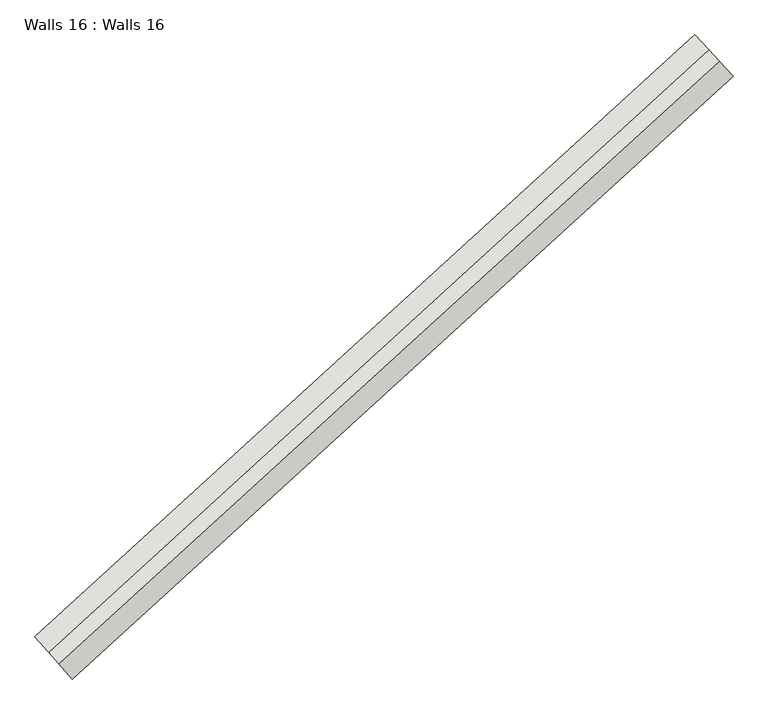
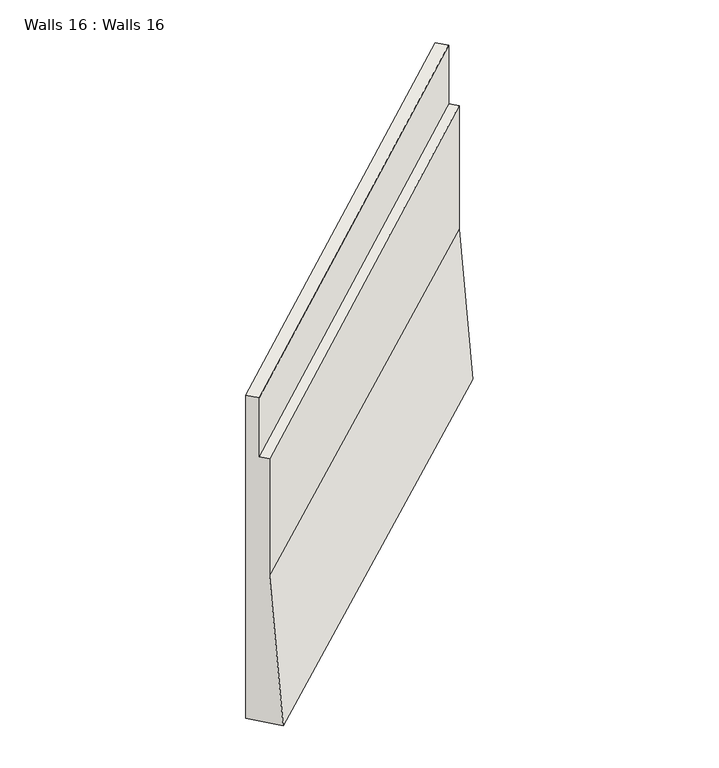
"""IFC4 building model written with IfcOpenShell, lengths in millimetres: wall geometry, Walls 16 : Walls 16."""

from ifc_helpers import new_model, si_unit, frame, origin, place, context, project, spatial, source, transform, mapped, element, save
from ifc_brep_helpers import plane_surface, spline_curve, spline_surface, advanced_brep


def walls_16_walls_16_197cf291(model_context):
    return source(origin(), model_context, "Body", "AdvancedBrep", [
        advanced_brep(
        [(-245553.4166962, -405876.6503576, 635270.0), (-245928.7089443, -405475.2624182, 635270.0), (-245928.7089443, -405475.2624182, 640870.0), (-245792.2390359, -405621.2216689, 640870.0), (-245792.2390359, -405621.2216689, 639870.0), (-245689.8866046, -405730.6911069, 639870.0), (-245689.8866046, -405730.6911069, 637770.0), (-251989.7359779, -411749.6510878, 635200.0), (-252122.6778509, -411600.3931722, 637700.0), (-252122.6778509, -411600.3931722, 639690.0), (-252222.3842557, -411488.4497354, 639690.0), (-252222.3842557, -411488.4497354, 640690.0), (-252355.3261287, -411339.1918197, 640690.0), (-252355.3261287, -411339.1918197, 635200.0)],
        [
            (0, 1),
            (1, 2),
            (2, 3),
            (3, 4),
            (4, 5),
            (5, 6),
            (6, 0),
            (7, 8),
            (8, 9),
            (9, 10),
            (10, 11),
            (11, 12),
            (12, 13),
            (13, 7),
            (12, 2, spline_curve(3, [(-252355.3261287, -411339.1918197, 640690.0), (-250189.608154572, -409410.530687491, 640750.000000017), (-248047.193875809, -407455.697325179, 640809.999999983), (-245928.7089443, -405475.2624182, 640870.0)], [4, 4], [0.0, 28.546220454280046])),
            (1, 13, spline_curve(3, [(-245928.7089443, -405475.2624182, 635270.0), (-248047.193875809, -407455.697325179, 635246.666666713), (-250189.608154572, -409410.530687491, 635223.333333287), (-252355.3261287, -411339.1918197, 635200.0)], [4, 4], [0.0, 28.546220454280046])),
            (11, 3, spline_curve(3, [(-252222.3842557, -411488.4497354, 640690.0), (-250055.476866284, -409558.703155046, 640749.999999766), (-247911.886464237, -407602.770127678, 640810.000000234), (-245792.2390359, -405621.2216689, 640870.0)], [4, 4], [0.0, 28.557303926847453])),
            (10, 4, spline_curve(3, [(-252222.3842557, -411488.4497354, 639690.0), (-250055.476866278, -409558.703154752, 639749.999999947), (-247911.886463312, -407602.77012707, 639810.000000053), (-245792.2390359, -405621.2216689, 639870.0)], [4, 4], [0.0, 28.565224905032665])),
            (9, 5, spline_curve(3, [(-252122.6778509, -411600.3931722, 639690.0), (-249954.87839956, -409669.832505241, 639750.000000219), (-247810.405904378, -407713.074729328, 639809.999999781), (-245689.8866046, -405730.6911069, 639870.0)], [4, 4], [0.0, 28.571165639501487])),
            (8, 6, spline_curve(3, [(-252122.6778509, -411600.3931722, 637700.0), (-249954.878399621, -409669.832505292, 637723.333333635), (-247810.405904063, -407713.074728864, 637746.666666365), (-245689.8866046, -405730.6911069, 637770.0)], [4, 4], [0.0, 28.573946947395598])),
            (7, 0, spline_curve(3, [(-251989.7359779, -411749.6510878, 635200.0), (-249820.747111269, -409818.004972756, 635223.333332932), (-247675.098492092, -407860.14753173, 635246.666667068), (-245553.4166962, -405876.6503576, 635270.0)], [4, 4], [0.0, 28.579849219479])),
        ],
        [
            plane_surface(frame((-245767.8694094, -405647.2858208, 638541.4285714), z_axis=(0.7304526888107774, 0.682963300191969, 0.0), x_axis=(0.682963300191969, -0.7304526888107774, 0.0))),
            plane_surface(frame((-252198.6446355, -411515.1029346, 638408.5714286), z_axis=(-0.7467427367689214, -0.6651129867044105, 0.0), x_axis=(-0.6651129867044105, 0.7467427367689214, 0.0))),
            spline_surface(3, 3, [[(-252355.3261287, -411339.1918197, 635200.0), (-250189.60815499, -409410.530687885, 635223.333333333), (-248047.193876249, -407455.697324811, 635246.666666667), (-245928.7089443, -405475.2624182, 635270.0)], [(-252355.3261287, -411339.1918197, 637030.0), (-250189.60815499, -409410.530687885, 637065.555555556), (-248047.193876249, -407455.697324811, 637101.111111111), (-245928.7089443, -405475.2624182, 637136.666666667)], [(-252355.3261287, -411339.1918197, 638860.0), (-250189.60815499, -409410.530687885, 638907.777777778), (-248047.193876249, -407455.697324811, 638955.555555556), (-245928.7089443, -405475.2624182, 639003.333333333)], [(-252355.3261287, -411339.1918197, 640690.0), (-250189.60815499, -409410.530687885, 640750.0), (-248047.193876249, -407455.697324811, 640810.0), (-245928.7089443, -405475.2624182, 640870.0)]], [4, 4], [4, 4], [0.0, 18.192257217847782], [0.0, 28.546220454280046]),
            spline_surface(3, 3, [[(-252355.3261287, -411339.1918197, 640690.0), (-250189.60815499, -409410.530687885, 640750.0), (-248047.193876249, -407455.697324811, 640810.0), (-245928.7089443, -405475.2624182, 640870.0)], [(-252311.012171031, -411388.944458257, 640690.0), (-250144.897725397, -409459.921510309, 640750.0), (-248002.091405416, -407504.721592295, 640810.0), (-245883.218974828, -405523.915501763, 640870.0)], [(-252266.698213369, -411438.697096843, 640690.0), (-250100.187295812, -409509.312332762, 640750.0), (-247956.988934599, -407553.74585979, 640810.0), (-245837.729005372, -405572.568585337, 640870.0)], [(-252222.3842557, -411488.4497354, 640690.0), (-250055.476866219, -409558.703155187, 640750.0), (-247911.886463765, -407602.770127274, 640810.0), (-245792.2390359, -405621.2216689, 640870.0)]], [4, 4], [4, 4], [0.0, 0.6556740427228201], [0.0, 28.557303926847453]),
            spline_surface(3, 3, [[(-252222.3842557, -411488.4497354, 640690.0), (-250055.476866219, -409558.703155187, 640750.0), (-247911.886463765, -407602.770127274, 640810.0), (-245792.2390359, -405621.2216689, 640870.0)], [(-252222.3842557, -411488.4497354, 640356.666666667), (-250055.476866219, -409558.703155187, 640416.666666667), (-247911.886463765, -407602.770127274, 640476.666666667), (-245792.2390359, -405621.2216689, 640536.666666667)], [(-252222.3842557, -411488.4497354, 640023.333333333), (-250055.476866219, -409558.703155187, 640083.333333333), (-247911.886463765, -407602.770127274, 640143.333333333), (-245792.2390359, -405621.2216689, 640203.333333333)], [(-252222.3842557, -411488.4497354, 639690.0), (-250055.476866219, -409558.703155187, 639750.0), (-247911.886463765, -407602.770127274, 639810.0), (-245792.2390359, -405621.2216689, 639870.0)]], [4, 4], [4, 4], [0.0, 3.280839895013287], [0.0, 28.565224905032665]),
            spline_surface(3, 3, [[(-252222.3842557, -411488.4497354, 639690.0), (-250055.476866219, -409558.703155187, 639750.0), (-247911.886463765, -407602.770127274, 639810.0), (-245792.2390359, -405621.2216689, 639870.0)], [(-252189.148787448, -411525.764214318, 639690.0), (-250021.944044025, -409595.746272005, 639750.0), (-247878.05961064, -407639.538327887, 639810.0), (-245758.121558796, -405657.711481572, 639870.0)], [(-252155.913319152, -411563.078693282, 639690.0), (-249988.411221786, -409632.78938887, 639750.0), (-247844.232757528, -407676.306528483, 639810.0), (-245724.004081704, -405694.201294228, 639870.0)], [(-252122.6778509, -411600.3931722, 639690.0), (-249954.878399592, -409669.832505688, 639750.0), (-247810.405904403, -407713.074729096, 639810.0), (-245689.8866046, -405730.6911069, 639870.0)]], [4, 4], [4, 4], [0.0, 0.49175553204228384], [0.0, 28.571165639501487]),
            spline_surface(3, 3, [[(-252122.6778509, -411600.3931722, 639690.0), (-249954.878399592, -409669.832505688, 639750.0), (-247810.405904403, -407713.074729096, 639810.0), (-245689.8866046, -405730.6911069, 639870.0)], [(-252122.6778509, -411600.3931722, 639026.666666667), (-249954.878399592, -409669.832505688, 639074.444444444), (-247810.405904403, -407713.074729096, 639122.222222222), (-245689.8866046, -405730.6911069, 639170.0)], [(-252122.6778509, -411600.3931722, 638363.333333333), (-249954.878399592, -409669.832505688, 638398.888888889), (-247810.405904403, -407713.074729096, 638434.444444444), (-245689.8866046, -405730.6911069, 638470.0)], [(-252122.6778509, -411600.3931722, 637700.0), (-249954.878399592, -409669.832505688, 637723.333333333), (-247810.405904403, -407713.074729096, 637746.666666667), (-245689.8866046, -405730.6911069, 637770.0)]], [4, 4], [4, 4], [0.0, 6.7093175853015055], [0.0, 28.573946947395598]),
            spline_surface(3, 3, [[(-252122.6778509, -411600.3931722, 637700.0), (-249954.878399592, -409669.832505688, 637723.333333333), (-247810.405904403, -407713.074729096, 637746.666666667), (-245689.8866046, -405730.6911069, 637770.0)], [(-252078.363893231, -411650.145810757, 636866.666666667), (-249910.167969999, -409719.223328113, 636890.0), (-247765.303433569, -407762.09899658, 636913.333333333), (-245644.396635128, -405779.344190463, 636936.666666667)], [(-252034.049935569, -411699.898449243, 636033.333333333), (-249865.457540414, -409768.614150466, 636056.666666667), (-247720.200962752, -407811.123264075, 636080.0), (-245598.906665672, -405827.997274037, 636103.333333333)], [(-251989.7359779, -411749.6510878, 635200.0), (-249820.747110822, -409818.004972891, 635223.333333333), (-247675.098491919, -407860.147531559, 635246.666666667), (-245553.4166962, -405876.6503576, 635270.0)]], [4, 4], [4, 4], [0.0, 8.22826522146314], [0.0, 28.579849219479]),
            spline_surface(3, 3, [[(-251989.7359779, -411749.6510878, 635200.0), (-249820.747110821, -409818.004972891, 635223.333333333), (-247675.098491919, -407860.147531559, 635246.666666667), (-245553.4166962, -405876.6503576, 635270.0)], [(-252111.599361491, -411612.831331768, 635200.0), (-249943.700792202, -409682.180211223, 635223.333333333), (-247799.130286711, -407725.330795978, 635246.666666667), (-245678.514112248, -405742.854377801, 635270.0)], [(-252233.462745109, -411476.011575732, 635200.0), (-250066.654473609, -409546.355449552, 635223.333333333), (-247923.162081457, -407590.514060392, 635246.666666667), (-245803.611528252, -405609.058397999, 635270.0)], [(-252355.3261287, -411339.1918197, 635200.0), (-250189.60815499, -409410.530687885, 635223.333333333), (-248047.193876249, -407455.697324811, 635246.666666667), (-245928.7089443, -405475.2624182, 635270.0)]], [4, 4], [4, 4], [0.0, 1.8031036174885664], [0.0, 28.565984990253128]),
        ],
        [
            (0, [[1, 2, 3, 4, 5, 6, 7]]),
            (1, [[8, 9, 10, 11, 12, 13, 14]]),
            (2, [[-13, 15, -2, 16]]),
            (3, [[-12, 17, -3, -15]]),
            (4, [[-11, 18, -4, -17]]),
            (5, [[-10, 19, -5, -18]]),
            (6, [[-9, 20, -6, -19]]),
            (7, [[-8, 21, -7, -20]]),
            (8, [[-14, -16, -1, -21]]),
        ],
    ),
    ])


if __name__ == "__main__":
    model = new_model("IFC4")
    model_context = context("Model", 3, world=origin())
    ifc_project = project(units=[si_unit("LENGTHUNIT", "METRE", prefix="MILLI")], contexts=[model_context])
    site = spatial("IfcSite", under=ifc_project)
    building = spatial("IfcBuilding", under=site)
    placement = place(None, origin())
    walls_16_walls_16_shape = walls_16_walls_16_197cf291(model_context)
    element("IfcWall", 1, ObjectType="Walls 16 : Walls 16", at=placement, inside=building, context=model_context, shape_type="MappedRepresentation", body=[
        mapped(walls_16_walls_16_shape, transform((0.0, 0.0, 0.0), x_axis=(1.0, 0.0, 0.0), y_axis=(0.0, 1.0, 0.0), z_axis=(0.0, 0.0, 1.0))),
    ])
    save(model, "model.ifc")
